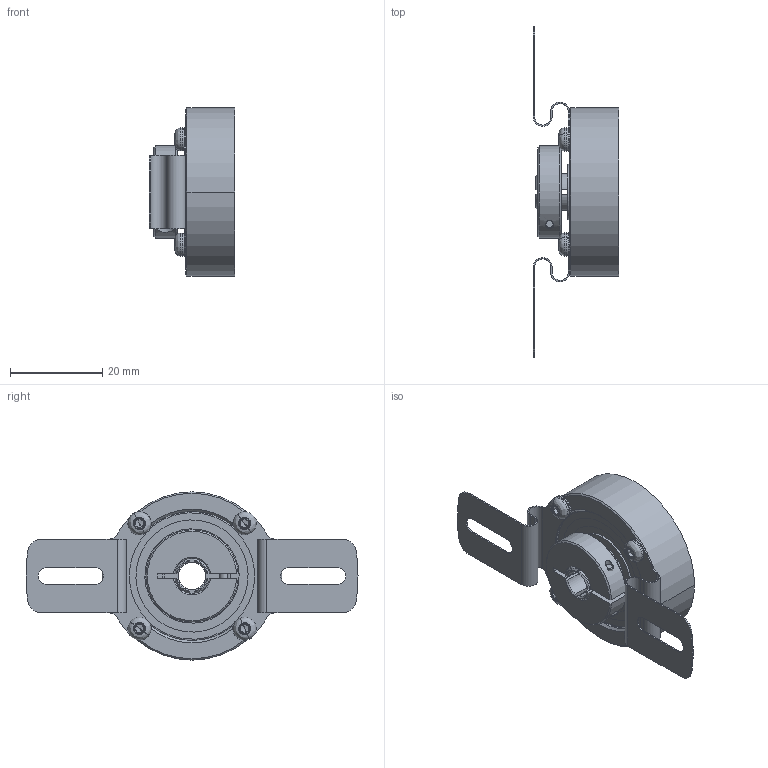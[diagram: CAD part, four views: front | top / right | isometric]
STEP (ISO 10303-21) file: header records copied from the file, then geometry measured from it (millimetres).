
FILE_DESCRIPTION (( 'STEP AP214' ), '1' );
FILE_NAME ('drawing-ucd-v6b0-q3a-n.STEP', '2017-01-16T13:40:33', ( '' ), ( '' ), 'SwSTEP 2.0', 'SolidWorks 2015', '' );
FILE_SCHEMA (( 'AUTOMOTIVE_DESIGN' ));
Length unit declared in the file: millimetre
Products named in the file (1): drawing-ucd-v6b0-q3a-n
Bounding box: 18.5 x 72 x 36.5 mm (x, y, z)
Volume: 10467 mm3; surface area: 14594.6 mm2
Topology: 23 solids, 23 shells, 576 faces, 1480 edges, 903 vertices
Faces by surface type: cylinder 194, plane 149, cone 121, bspline 108, torus 4
Entity records: 27262 total; most frequent: CARTESIAN_POINT 7398, ORIENTED_EDGE 2816, DIRECTION 2760, EDGE_CURVE 1408, AXIS2_PLACEMENT_3D 1173, VERTEX_POINT 903, CIRCLE 704, EDGE_LOOP 647
